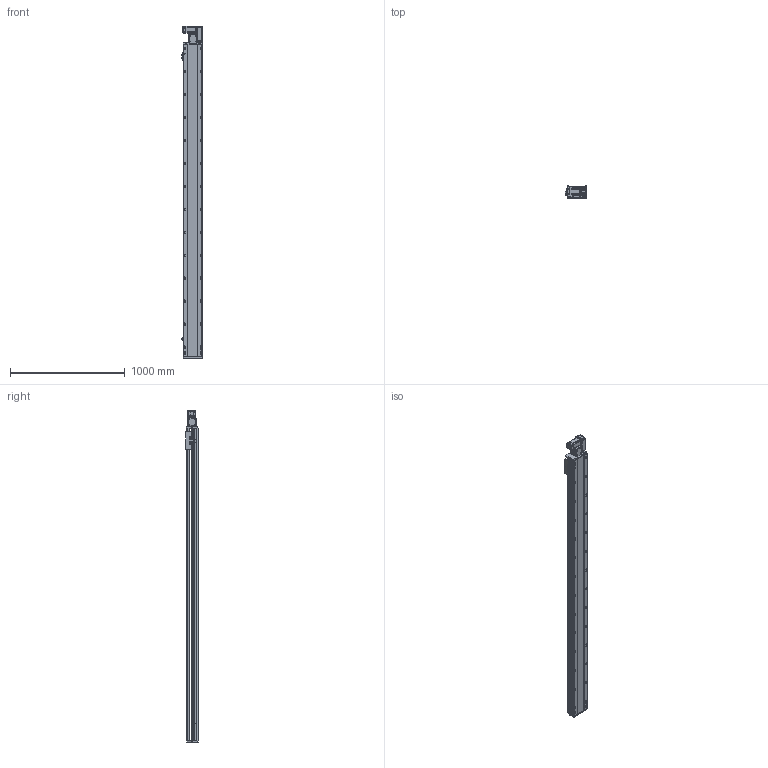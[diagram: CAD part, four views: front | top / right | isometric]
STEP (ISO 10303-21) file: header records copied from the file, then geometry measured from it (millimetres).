
FILE_DESCRIPTION (( 'STEP AP214' ), '1' );
FILE_NAME ('RTB17S-XX-2450-R-M40-C4.STEP', '2025-12-11T07:50:51', ( '' ), ( '' ), 'SwSTEP 2.0', 'SolidWorks 2018', '' );
FILE_SCHEMA (( 'AUTOMOTIVE_DESIGN' ));
Length unit declared in the file: millimetre
Products named in the file (14): RTB14-L-008-M20--萇儂啣^RTB17S-R-々湍釱蚾饜-400W_RTB17S-XX-XX-R-M40-C4; RTB17S-L-004佪裝蹟譫蟀諉釱^RTB17S-XX-XX-R-M40-C4; RTB17S-R-々湍釱蚾饜-400W^RTB17S-XX-XX-R-M40-C4; RTB14-L-018P^RTB17S-R-々湍釱蚾饜-400W_RTB17S-XX-XX-R-M40-C4; OMRON EE-SX672 传感器^RTB17S-XX-XX-R-M40-C4; RTB17-R-011菁釱^RTB17S-XX-XX-R-M40-C4; RTB17S-XX-2450-R-M40-C4; RTB17S-L-007奻裔^RTB17S-XX-XX-R-M40-C4; RTH13-BL-012覜茼え俋离^RTB17S-XX-XX-R-M40-C4; RTB17S-L-001耜醱啣^RTB17S-XX-XX-R-M40-C4; 400W侜督萇儂^RTB17S-XX-XX-R-M40-C4; RTB14-L-005P--轴承塑胶压盖^RTB17S-R-皮带座装配-400W_RTB17S-XX-XX-R-M40-C4; RTB14-L-017P^RTB17S-R-々湍釱蚾饜-400W_RTB17S-XX-XX-R-M40-C4; RTB17S-L-014-T20--々湍釱^RTB17S-R-々湍釱蚾饜-400W_RTB17S-XX-XX-R-M40-C4
Assembly tree (16 placements, depth 3):
  RTB17S-XX-2450-R-M40-C4
    RTB17-R-011菁釱^RTB17S-XX-XX-R-M40-C4
    RTB17S-L-007奻裔^RTB17S-XX-XX-R-M40-C4
    OMRON EE-SX672 传感器^RTB17S-XX-XX-R-M40-C4  x3
    RTB17S-L-001耜醱啣^RTB17S-XX-XX-R-M40-C4
    400W侜督萇儂^RTB17S-XX-XX-R-M40-C4
    RTB17S-L-004佪裝蹟譫蟀諉釱^RTB17S-XX-XX-R-M40-C4
    RTH13-BL-012覜茼え俋离^RTB17S-XX-XX-R-M40-C4
    RTB17S-R-々湍釱蚾饜-400W^RTB17S-XX-XX-R-M40-C4
      RTB17S-L-014-T20--々湍釱^RTB17S-R-々湍釱蚾饜-400W_RTB17S-XX-XX-R-M40-C4
      RTB14-L-005P--轴承塑胶压盖^RTB17S-R-皮带座装配-400W_RTB17S-XX-XX-R-M40-C4
      RTB14-L-008-M20--萇儂啣^RTB17S-R-々湍釱蚾饜-400W_RTB17S-XX-XX-R-M40-C4
      RTB14-L-017P^RTB17S-R-々湍釱蚾饜-400W_RTB17S-XX-XX-R-M40-C4  x2
      RTB14-L-018P^RTB17S-R-々湍釱蚾饜-400W_RTB17S-XX-XX-R-M40-C4
Bounding box: 183.5 x 108 x 2891 mm (x, y, z)
Volume: 24193735.4 mm3; surface area: 2789336 mm2
Topology: 15 solids, 15 shells, 2333 faces, 6519 edges, 4257 vertices
Faces by surface type: plane 1084, cylinder 801, bspline 301, cone 139, torus 8
Entity records: 68777 total; most frequent: CARTESIAN_POINT 19524, ORIENTED_EDGE 9882, DIRECTION 9116, EDGE_CURVE 4941, VERTEX_POINT 3245, AXIS2_PLACEMENT_3D 3175, VECTOR 2766, LINE 2766
